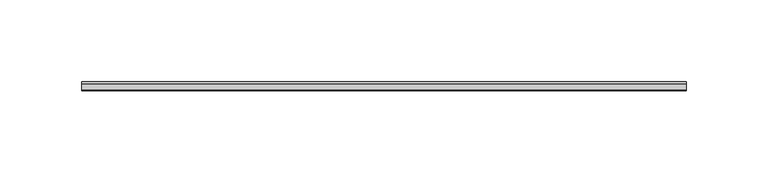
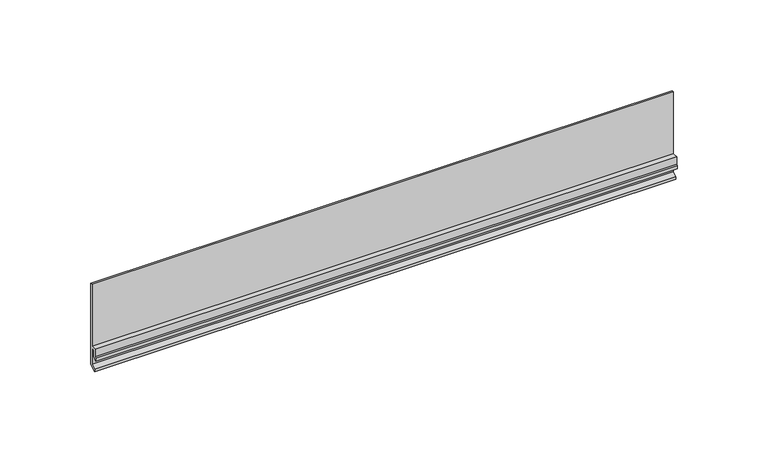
"""IFC4 building model written with IfcOpenShell, lengths in millimetres: plate geometry, FastPlank_P46V-V-Notch-6″-Plank-Horizontal : P46V-V-Notch-6″-Plank-Horizontal."""

from ifc_helpers import new_model, si_unit, frame, origin, place, context, project, spatial, polyline, outline, extrude, source, transform, mapped, element, save


def plate_b0c13ac5(model_context):
    return source(origin(), model_context, "Body", "SweptSolid", [
        extrude(outline(polyline([(18.8745946, 2.3957023), (14.7246029, 0.0), (14.7246029, 1.7319938), (17.3745976, 3.2617795), (17.3745976, 13.9827581), (15.5246013, 13.9827581), (15.5246013, 9.9691576), (13.3162936, 7.7608499), (13.3162936, 9.8794005), (14.0246043, 10.5877112), (14.0246043, 15.4863039), (17.5745972, 15.4863039), (17.5745972, 56.8694827), (18.8745946, 56.8694827), (18.8745946, 2.3957023)])), frame((-184.7615925, 0.0, 0.0), z_axis=(1.0, 0.0, 0.0), x_axis=(0.0, 1.0, 0.0)), (0.0, 0.0, 1.0), 369.5231851),
    ])


if __name__ == "__main__":
    model = new_model("IFC4")
    model_context = context("Model", 3, world=origin())
    ifc_project = project(units=[si_unit("LENGTHUNIT", "METRE", prefix="MILLI")], contexts=[model_context])
    site = spatial("IfcSite", under=ifc_project)
    building = spatial("IfcBuilding", under=site)
    placement = place(None, origin())
    plate_shape = plate_b0c13ac5(model_context)
    element("IfcPlate", 1, ObjectType="FastPlank_P46V-V-Notch-6″-Plank-Horizontal : P46V-V-Notch-6″-Plank-Horizontal", at=placement, inside=building, context=model_context, shape_type="MappedRepresentation", body=[
        mapped(plate_shape, transform((0.0, 0.0, 0.0), x_axis=(1.0, 0.0, 0.0), y_axis=(0.0, 1.0, 0.0), z_axis=(0.0, 0.0, 1.0))),
    ])
    save(model, "model.ifc")
